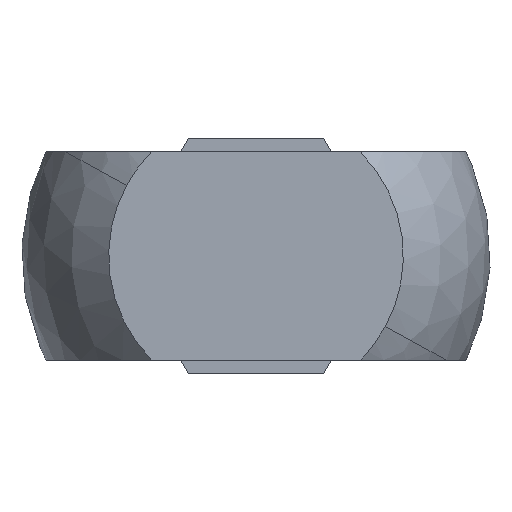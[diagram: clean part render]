
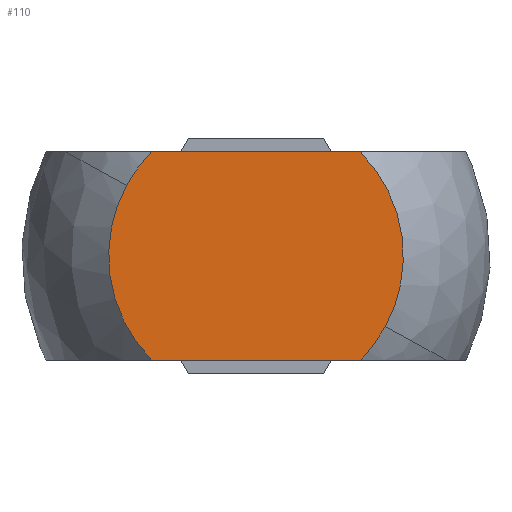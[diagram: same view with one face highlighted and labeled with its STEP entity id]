
A CAD part, left-side view. The second image highlights one B-rep face of the part: STEP entity #110.
In plain terms, the highlighted planar face has unit normal (-1, 0, 0).
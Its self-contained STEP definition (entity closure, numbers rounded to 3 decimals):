
#31=CARTESIAN_POINT('Axis2P3D Location',(-7.,-14.63,4.)) ;
#36=CARTESIAN_POINT('Line Origine',(-7.,0.,4.)) ;
#40=CARTESIAN_POINT('Vertex',(-7.,-4.,4.)) ;
#42=CARTESIAN_POINT('Vertex',(-7.,4.,4.)) ;
#46=CARTESIAN_POINT('Control Point',(-7.,4.,4.)) ;
#47=CARTESIAN_POINT('Control Point',(-7.,4.228,3.772)) ;
#48=CARTESIAN_POINT('Control Point',(-7.,4.44,3.527)) ;
#49=CARTESIAN_POINT('Control Point',(-7.,4.635,3.268)) ;
#50=CARTESIAN_POINT('Control Point',(-7.,4.81,2.995)) ;
#51=CARTESIAN_POINT('Control Point',(-7.,4.964,2.712)) ;
#52=CARTESIAN_POINT('Vertex',(-7.,4.964,2.712)) ;
#56=CARTESIAN_POINT('Control Point',(-7.,4.,-4.)) ;
#57=CARTESIAN_POINT('Control Point',(-7.,4.412,-3.588)) ;
#58=CARTESIAN_POINT('Control Point',(-7.,4.771,-3.123)) ;
#59=CARTESIAN_POINT('Control Point',(-7.,5.068,-2.614)) ;
#60=CARTESIAN_POINT('Control Point',(-7.,5.523,-1.531)) ;
#61=CARTESIAN_POINT('Control Point',(-7.,5.69,-0.369)) ;
#62=CARTESIAN_POINT('Control Point',(-7.,5.698,0.221)) ;
#63=CARTESIAN_POINT('Control Point',(-7.,5.596,1.093)) ;
#64=CARTESIAN_POINT('Control Point',(-7.,5.331,1.926)) ;
#65=CARTESIAN_POINT('Control Point',(-7.,5.225,2.196)) ;
#66=CARTESIAN_POINT('Control Point',(-7.,5.103,2.458)) ;
#67=CARTESIAN_POINT('Control Point',(-7.,4.964,2.712)) ;
#68=CARTESIAN_POINT('Vertex',(-7.,4.,-4.)) ;
#71=CARTESIAN_POINT('Line Origine',(-7.,0.,-4.)) ;
#75=CARTESIAN_POINT('Vertex',(-7.,-4.,-4.)) ;
#79=CARTESIAN_POINT('Control Point',(-7.,-4.964,-2.712)) ;
#80=CARTESIAN_POINT('Control Point',(-7.,-4.81,-2.995)) ;
#81=CARTESIAN_POINT('Control Point',(-7.,-4.635,-3.268)) ;
#82=CARTESIAN_POINT('Control Point',(-7.,-4.44,-3.527)) ;
#83=CARTESIAN_POINT('Control Point',(-7.,-4.228,-3.772)) ;
#84=CARTESIAN_POINT('Control Point',(-7.,-4.,-4.)) ;
#85=CARTESIAN_POINT('Vertex',(-7.,-4.964,-2.712)) ;
#89=CARTESIAN_POINT('Control Point',(-7.,-4.,4.)) ;
#90=CARTESIAN_POINT('Control Point',(-7.,-4.412,3.588)) ;
#91=CARTESIAN_POINT('Control Point',(-7.,-4.771,3.123)) ;
#92=CARTESIAN_POINT('Control Point',(-7.,-5.068,2.614)) ;
#93=CARTESIAN_POINT('Control Point',(-7.,-5.523,1.531)) ;
#94=CARTESIAN_POINT('Control Point',(-7.,-5.69,0.369)) ;
#95=CARTESIAN_POINT('Control Point',(-7.,-5.698,-0.221)) ;
#96=CARTESIAN_POINT('Control Point',(-7.,-5.596,-1.093)) ;
#97=CARTESIAN_POINT('Control Point',(-7.,-5.331,-1.926)) ;
#98=CARTESIAN_POINT('Control Point',(-7.,-5.225,-2.196)) ;
#99=CARTESIAN_POINT('Control Point',(-7.,-5.103,-2.458)) ;
#100=CARTESIAN_POINT('Control Point',(-7.,-4.964,-2.712)) ;
#38=VECTOR('Line Direction',#37,1.) ;
#73=VECTOR('Line Direction',#72,1.) ;
#32=DIRECTION('Axis2P3D Direction',(-1.,0.,0.)) ;
#33=DIRECTION('Axis2P3D XDirection',(0.,1.,0.)) ;
#37=DIRECTION('Vector Direction',(0.,1.,0.)) ;
#72=DIRECTION('Vector Direction',(0.,-1.,0.)) ;
#34=AXIS2_PLACEMENT_3D('Plane Axis2P3D',#31,#32,#33) ;
#39=LINE('Line',#36,#38) ;
#74=LINE('Line',#71,#73) ;
#35=PLANE('',#34) ;
#44=EDGE_CURVE('',#41,#43,#39,.T.) ;
#54=EDGE_CURVE('',#43,#53,#45,.T.) ;
#70=EDGE_CURVE('',#69,#53,#55,.T.) ;
#77=EDGE_CURVE('',#69,#76,#74,.T.) ;
#87=EDGE_CURVE('',#86,#76,#78,.T.) ;
#101=EDGE_CURVE('',#41,#86,#88,.T.) ;
#103=ORIENTED_EDGE('',*,*,#44,.T.) ;
#104=ORIENTED_EDGE('',*,*,#54,.T.) ;
#105=ORIENTED_EDGE('',*,*,#70,.F.) ;
#106=ORIENTED_EDGE('',*,*,#77,.T.) ;
#107=ORIENTED_EDGE('',*,*,#87,.F.) ;
#108=ORIENTED_EDGE('',*,*,#101,.F.) ;
#102=EDGE_LOOP('',(#103,#104,#105,#106,#107,#108)) ;
#41=VERTEX_POINT('',#40) ;
#43=VERTEX_POINT('',#42) ;
#53=VERTEX_POINT('',#52) ;
#69=VERTEX_POINT('',#68) ;
#76=VERTEX_POINT('',#75) ;
#86=VERTEX_POINT('',#85) ;
#110=ADVANCED_FACE('Body.2',(#109),#35,.T.) ;
#45=B_SPLINE_CURVE_WITH_KNOTS('',5,(#46,#47,#48,#49,#50,#51),.UNSPECIFIED.,.F.,.U.,(6,6),(0.,2.285),.UNSPECIFIED.) ;
#55=B_SPLINE_CURVE_WITH_KNOTS('',5,(#56,#57,#58,#59,#60,#61,#62,#63,#64,#65,#66,#67),.UNSPECIFIED.,.F.,.U.,(6,3,3,6),(0.,4.129,8.257,10.307),.UNSPECIFIED.) ;
#78=B_SPLINE_CURVE_WITH_KNOTS('',5,(#79,#80,#81,#82,#83,#84),.UNSPECIFIED.,.F.,.U.,(6,6),(0.,2.285),.UNSPECIFIED.) ;
#88=B_SPLINE_CURVE_WITH_KNOTS('',5,(#89,#90,#91,#92,#93,#94,#95,#96,#97,#98,#99,#100),.UNSPECIFIED.,.F.,.U.,(6,3,3,6),(0.,4.129,8.257,10.307),.UNSPECIFIED.) ;
#109=FACE_OUTER_BOUND('',#102,.T.) ;
